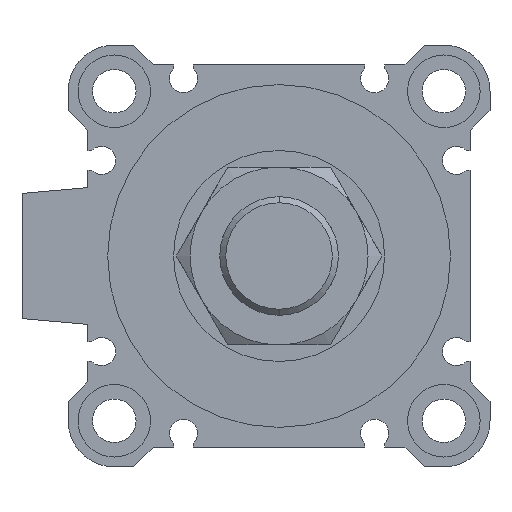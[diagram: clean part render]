
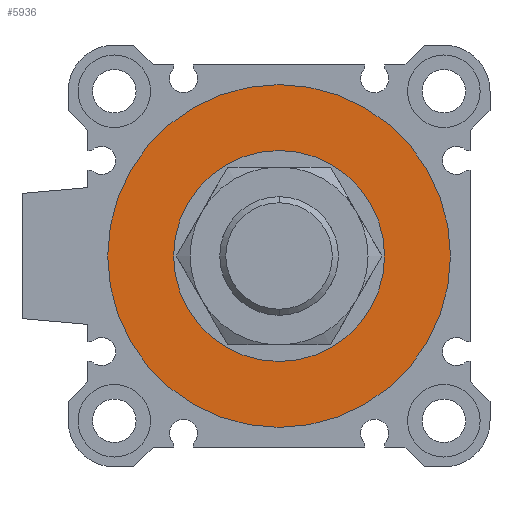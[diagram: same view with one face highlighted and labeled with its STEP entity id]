
A CAD part, left-side view. The second image highlights one B-rep face of the part: STEP entity #5936.
In plain terms, the highlighted planar face has unit normal (-1, 0, 0).
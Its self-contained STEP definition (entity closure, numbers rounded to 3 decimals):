
#149 = AXIS2_PLACEMENT_3D ( 'NONE', #2605, #7082, #2645 ) ;
#315 = ORIENTED_EDGE ( 'NONE', *, *, #3568, .F. ) ;
#402 = FACE_BOUND ( 'NONE', #1999, .T. ) ;
#440 = FACE_OUTER_BOUND ( 'NONE', #2167, .T. ) ;
#476 = EDGE_CURVE ( 'NONE', #1441, #867, #4750, .T. ) ;
#867 = VERTEX_POINT ( 'NONE', #5530 ) ;
#1146 = ORIENTED_EDGE ( 'NONE', *, *, #476, .F. ) ;
#1174 = CARTESIAN_POINT ( 'NONE',  ( 3., 0., 0. ) ) ;
#1393 = DIRECTION ( 'NONE',  ( 0., 0., -1. ) ) ;
#1441 = VERTEX_POINT ( 'NONE', #4310 ) ;
#1607 = AXIS2_PLACEMENT_3D ( 'NONE', #4454, #5067, #7173 ) ;
#1885 = ORIENTED_EDGE ( 'NONE', *, *, #3052, .T. ) ;
#1999 = EDGE_LOOP ( 'NONE', ( #7038, #1885 ) ) ;
#2167 = EDGE_LOOP ( 'NONE', ( #1146, #315 ) ) ;
#2211 = PLANE ( 'NONE',  #149 ) ;
#2469 = AXIS2_PLACEMENT_3D ( 'NONE', #1174, #3864, #2874 ) ;
#2605 = CARTESIAN_POINT ( 'NONE',  ( 3., 0., 0. ) ) ;
#2645 = DIRECTION ( 'NONE',  ( 0., 1., 0. ) ) ;
#2874 = DIRECTION ( 'NONE',  ( 0., 0., -1. ) ) ;
#3052 = EDGE_CURVE ( 'NONE', #4819, #6015, #4829, .T. ) ;
#3226 = CARTESIAN_POINT ( 'NONE',  ( 3., 0., 16. ) ) ;
#3279 = CIRCLE ( 'NONE', #6750, 26. ) ;
#3568 = EDGE_CURVE ( 'NONE', #867, #1441, #3279, .T. ) ;
#3675 = CARTESIAN_POINT ( 'NONE',  ( 3., 0., 0. ) ) ;
#3864 = DIRECTION ( 'NONE',  ( 1., 0., 0. ) ) ;
#4028 = EDGE_CURVE ( 'NONE', #6015, #4819, #4092, .T. ) ;
#4054 = CARTESIAN_POINT ( 'NONE',  ( 3., 0., -16. ) ) ;
#4092 = CIRCLE ( 'NONE', #2469, 16. ) ;
#4277 = CARTESIAN_POINT ( 'NONE',  ( 3., 0., 0. ) ) ;
#4310 = CARTESIAN_POINT ( 'NONE',  ( 3., 0., 26. ) ) ;
#4348 = DIRECTION ( 'NONE',  ( 0., 0., -1. ) ) ;
#4454 = CARTESIAN_POINT ( 'NONE',  ( 3., 0., 0. ) ) ;
#4476 = AXIS2_PLACEMENT_3D ( 'NONE', #3675, #5282, #1393 ) ;
#4750 = CIRCLE ( 'NONE', #1607, 26. ) ;
#4819 = VERTEX_POINT ( 'NONE', #4054 ) ;
#4824 = DIRECTION ( 'NONE',  ( 1., 0., 0. ) ) ;
#4829 = CIRCLE ( 'NONE', #4476, 16. ) ;
#5067 = DIRECTION ( 'NONE',  ( 1., 0., 0. ) ) ;
#5282 = DIRECTION ( 'NONE',  ( 1., 0., 0. ) ) ;
#5530 = CARTESIAN_POINT ( 'NONE',  ( 3., 0., -26. ) ) ;
#5936 = ADVANCED_FACE ( 'NONE', ( #440, #402 ), #2211, .F. ) ;
#6015 = VERTEX_POINT ( 'NONE', #3226 ) ;
#6750 = AXIS2_PLACEMENT_3D ( 'NONE', #4277, #4824, #4348 ) ;
#7038 = ORIENTED_EDGE ( 'NONE', *, *, #4028, .T. ) ;
#7082 = DIRECTION ( 'NONE',  ( 1., 0., 0. ) ) ;
#7173 = DIRECTION ( 'NONE',  ( 0., 0., -1. ) ) ;
